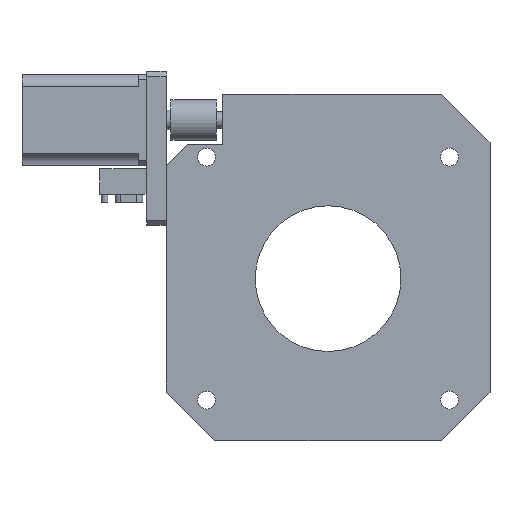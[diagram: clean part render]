
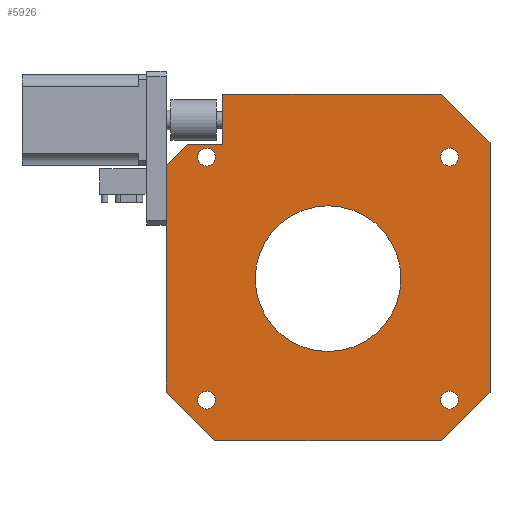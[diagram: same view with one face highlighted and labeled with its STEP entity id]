
A CAD part, front view. The second image highlights one B-rep face of the part: STEP entity #5926.
In plain terms, the highlighted planar face has unit normal (0, -1, 0).
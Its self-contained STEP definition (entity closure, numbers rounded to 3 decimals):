
#1763=DIRECTION('',(-1.,0.,0.));
#1764=VECTOR('',#1763,135.);
#1765=CARTESIAN_POINT('',(70.,0.,114.));
#1766=LINE('',#1765,#1764);
#1767=DIRECTION('',(-0.707,0.,0.707));
#1768=VECTOR('',#1767,42.426);
#1769=CARTESIAN_POINT('',(100.,0.,84.));
#1770=LINE('',#1769,#1768);
#1771=DIRECTION('',(0.,0.,1.));
#1772=VECTOR('',#1771,154.);
#1773=CARTESIAN_POINT('',(100.,0.,-70.));
#1774=LINE('',#1773,#1772);
#1775=DIRECTION('',(0.707,0.,0.707));
#1776=VECTOR('',#1775,42.426);
#1777=CARTESIAN_POINT('',(70.,0.,-100.));
#1778=LINE('',#1777,#1776);
#1779=DIRECTION('',(1.,0.,0.));
#1780=VECTOR('',#1779,140.);
#1781=CARTESIAN_POINT('',(-70.,0.,-100.));
#1782=LINE('',#1781,#1780);
#1783=DIRECTION('',(0.707,0.,-0.707));
#1784=VECTOR('',#1783,42.426);
#1785=CARTESIAN_POINT('',(-100.,0.,-70.));
#1786=LINE('',#1785,#1784);
#1787=DIRECTION('',(0.,0.,-1.));
#1788=VECTOR('',#1787,140.);
#1789=CARTESIAN_POINT('',(-100.,0.,70.));
#1790=LINE('',#1789,#1788);
#1791=DIRECTION('',(-0.707,0.,-0.707));
#1792=VECTOR('',#1791,18.385);
#1793=CARTESIAN_POINT('',(-87.,0.,83.));
#1794=LINE('',#1793,#1792);
#1795=CARTESIAN_POINT('',(-75.,0.,-75.));
#1796=DIRECTION('',(0.,1.,0.));
#1797=DIRECTION('',(0.,0.,-1.));
#1798=AXIS2_PLACEMENT_3D('',#1795,#1796,#1797);
#1800=CARTESIAN_POINT('',(-75.,0.,-75.));
#1801=DIRECTION('',(0.,1.,0.));
#1802=DIRECTION('',(0.,0.,1.));
#1803=AXIS2_PLACEMENT_3D('',#1800,#1801,#1802);
#1805=CARTESIAN_POINT('',(75.,0.,75.));
#1806=DIRECTION('',(0.,1.,0.));
#1807=DIRECTION('',(0.,0.,-1.));
#1808=AXIS2_PLACEMENT_3D('',#1805,#1806,#1807);
#1810=CARTESIAN_POINT('',(75.,0.,75.));
#1811=DIRECTION('',(0.,1.,0.));
#1812=DIRECTION('',(0.,0.,1.));
#1813=AXIS2_PLACEMENT_3D('',#1810,#1811,#1812);
#1815=CARTESIAN_POINT('',(0.,0.,0.));
#1816=DIRECTION('',(0.,1.,0.));
#1817=DIRECTION('',(0.,0.,1.));
#1818=AXIS2_PLACEMENT_3D('',#1815,#1816,#1817);
#1820=CARTESIAN_POINT('',(0.,0.,0.));
#1821=DIRECTION('',(0.,1.,0.));
#1822=DIRECTION('',(0.,0.,-1.));
#1823=AXIS2_PLACEMENT_3D('',#1820,#1821,#1822);
#1825=CARTESIAN_POINT('',(-75.,0.,75.));
#1826=DIRECTION('',(0.,1.,0.));
#1827=DIRECTION('',(0.,0.,-1.));
#1828=AXIS2_PLACEMENT_3D('',#1825,#1826,#1827);
#1830=CARTESIAN_POINT('',(-75.,0.,75.));
#1831=DIRECTION('',(0.,1.,0.));
#1832=DIRECTION('',(0.,0.,1.));
#1833=AXIS2_PLACEMENT_3D('',#1830,#1831,#1832);
#1835=CARTESIAN_POINT('',(75.,0.,-75.));
#1836=DIRECTION('',(0.,1.,0.));
#1837=DIRECTION('',(0.,0.,-1.));
#1838=AXIS2_PLACEMENT_3D('',#1835,#1836,#1837);
#1840=CARTESIAN_POINT('',(75.,0.,-75.));
#1841=DIRECTION('',(0.,1.,0.));
#1842=DIRECTION('',(0.,0.,1.));
#1843=AXIS2_PLACEMENT_3D('',#1840,#1841,#1842);
#1845=DIRECTION('',(1.,0.,0.));
#1846=VECTOR('',#1845,22.);
#1847=CARTESIAN_POINT('',(-87.,0.,83.));
#1848=LINE('',#1847,#1846);
#1849=DIRECTION('',(0.,0.,1.));
#1850=VECTOR('',#1849,31.);
#1851=CARTESIAN_POINT('',(-65.,0.,83.));
#1852=LINE('',#1851,#1850);
#2533=CARTESIAN_POINT('',(0.,0.,-45.));
#2534=VERTEX_POINT('',#2533);
#2577=CARTESIAN_POINT('',(-75.,0.,-80.5));
#2578=CARTESIAN_POINT('',(-75.,0.,-69.5));
#2579=VERTEX_POINT('',#2577);
#2580=VERTEX_POINT('',#2578);
#2621=CARTESIAN_POINT('',(75.,0.,69.5));
#2622=CARTESIAN_POINT('',(75.,0.,80.5));
#2623=VERTEX_POINT('',#2621);
#2624=VERTEX_POINT('',#2622);
#2676=CARTESIAN_POINT('',(100.,0.,-70.));
#2678=VERTEX_POINT('',#2676);
#2723=CARTESIAN_POINT('',(-100.,0.,70.));
#2724=CARTESIAN_POINT('',(-100.,0.,-70.));
#2725=VERTEX_POINT('',#2723);
#2726=VERTEX_POINT('',#2724);
#2868=CARTESIAN_POINT('',(-75.,0.,69.5));
#2870=VERTEX_POINT('',#2868);
#2871=CARTESIAN_POINT('',(0.,0.,45.));
#2872=VERTEX_POINT('',#2871);
#2941=CARTESIAN_POINT('',(75.,0.,-69.5));
#2942=CARTESIAN_POINT('',(75.,0.,-80.5));
#2943=VERTEX_POINT('',#2941);
#2944=VERTEX_POINT('',#2942);
#2957=CARTESIAN_POINT('',(-70.,0.,-100.));
#2958=CARTESIAN_POINT('',(70.,0.,-100.));
#2959=VERTEX_POINT('',#2957);
#2960=VERTEX_POINT('',#2958);
#3067=CARTESIAN_POINT('',(-75.,0.,80.5));
#3068=VERTEX_POINT('',#3067);
#3095=CARTESIAN_POINT('',(-65.,0.,114.));
#3096=VERTEX_POINT('',#3095);
#3147=CARTESIAN_POINT('',(-87.,0.,83.));
#3148=VERTEX_POINT('',#3147);
#3149=CARTESIAN_POINT('',(-65.,0.,83.));
#3150=VERTEX_POINT('',#3149);
#3181=CARTESIAN_POINT('',(100.,0.,84.));
#3182=CARTESIAN_POINT('',(70.,0.,114.));
#3183=VERTEX_POINT('',#3181);
#3184=VERTEX_POINT('',#3182);
#5872=CARTESIAN_POINT('',(-100.,0.,114.));
#5873=DIRECTION('',(0.,-1.,0.));
#5874=DIRECTION('',(0.,0.,-1.));
#5875=AXIS2_PLACEMENT_3D('',#5872,#5873,#5874);
#5876=PLANE('',#5875);
#5878=ORIENTED_EDGE('',*,*,#5877,.T.);
#5880=ORIENTED_EDGE('',*,*,#5879,.T.);
#5882=ORIENTED_EDGE('',*,*,#5881,.F.);
#5884=ORIENTED_EDGE('',*,*,#5883,.F.);
#5886=ORIENTED_EDGE('',*,*,#5885,.F.);
#5888=ORIENTED_EDGE('',*,*,#5887,.F.);
#5890=ORIENTED_EDGE('',*,*,#5889,.F.);
#5892=ORIENTED_EDGE('',*,*,#5891,.F.);
#5893=ORIENTED_EDGE('',*,*,#3434,.F.);
#5895=ORIENTED_EDGE('',*,*,#5894,.F.);
#5896=EDGE_LOOP('',(#5878,#5880,#5882,#5884,#5886,#5888,#5890,#5892,#5893,
#5895));
#5897=FACE_OUTER_BOUND('',#5896,.F.);
#5899=ORIENTED_EDGE('',*,*,#5898,.F.);
#5901=ORIENTED_EDGE('',*,*,#5900,.F.);
#5902=EDGE_LOOP('',(#5899,#5901));
#5903=FACE_BOUND('',#5902,.F.);
#5905=ORIENTED_EDGE('',*,*,#5904,.F.);
#5907=ORIENTED_EDGE('',*,*,#5906,.F.);
#5908=EDGE_LOOP('',(#5905,#5907));
#5909=FACE_BOUND('',#5908,.F.);
#5910=ORIENTED_EDGE('',*,*,#5854,.F.);
#5911=ORIENTED_EDGE('',*,*,#5864,.F.);
#5912=EDGE_LOOP('',(#5910,#5911));
#5913=FACE_BOUND('',#5912,.F.);
#5915=ORIENTED_EDGE('',*,*,#5914,.F.);
#5917=ORIENTED_EDGE('',*,*,#5916,.F.);
#5918=EDGE_LOOP('',(#5915,#5917));
#5919=FACE_BOUND('',#5918,.F.);
#5921=ORIENTED_EDGE('',*,*,#5920,.F.);
#5923=ORIENTED_EDGE('',*,*,#5922,.F.);
#5924=EDGE_LOOP('',(#5921,#5923));
#5925=FACE_BOUND('',#5924,.F.);
#5926=ADVANCED_FACE('',(#5897,#5903,#5909,#5913,#5919,#5925),#5876,.T.);
#1799=CIRCLE('',#1798,5.5);
#1804=CIRCLE('',#1803,5.5);
#1809=CIRCLE('',#1808,5.5);
#1814=CIRCLE('',#1813,5.5);
#1819=CIRCLE('',#1818,45.);
#1824=CIRCLE('',#1823,45.);
#1829=CIRCLE('',#1828,5.5);
#1834=CIRCLE('',#1833,5.5);
#1839=CIRCLE('',#1838,5.5);
#1844=CIRCLE('',#1843,5.5);
#3434=EDGE_CURVE('',#2725,#2726,#1790,.T.);
#5854=EDGE_CURVE('',#2872,#2534,#1819,.T.);
#5864=EDGE_CURVE('',#2534,#2872,#1824,.T.);
#5877=EDGE_CURVE('',#3148,#3150,#1848,.T.);
#5879=EDGE_CURVE('',#3150,#3096,#1852,.T.);
#5881=EDGE_CURVE('',#3184,#3096,#1766,.T.);
#5883=EDGE_CURVE('',#3183,#3184,#1770,.T.);
#5885=EDGE_CURVE('',#2678,#3183,#1774,.T.);
#5887=EDGE_CURVE('',#2960,#2678,#1778,.T.);
#5889=EDGE_CURVE('',#2959,#2960,#1782,.T.);
#5891=EDGE_CURVE('',#2726,#2959,#1786,.T.);
#5894=EDGE_CURVE('',#3148,#2725,#1794,.T.);
#5898=EDGE_CURVE('',#2579,#2580,#1799,.T.);
#5900=EDGE_CURVE('',#2580,#2579,#1804,.T.);
#5904=EDGE_CURVE('',#2623,#2624,#1809,.T.);
#5906=EDGE_CURVE('',#2624,#2623,#1814,.T.);
#5914=EDGE_CURVE('',#2870,#3068,#1829,.T.);
#5916=EDGE_CURVE('',#3068,#2870,#1834,.T.);
#5920=EDGE_CURVE('',#2944,#2943,#1839,.T.);
#5922=EDGE_CURVE('',#2943,#2944,#1844,.T.);
